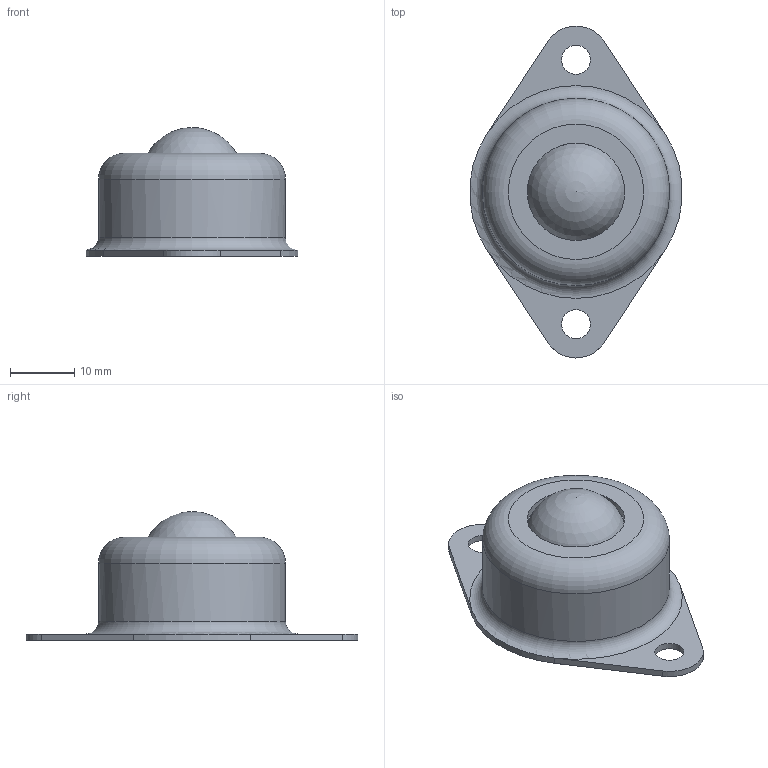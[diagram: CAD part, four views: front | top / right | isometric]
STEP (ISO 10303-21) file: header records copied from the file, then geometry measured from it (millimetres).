
FILE_DESCRIPTION(/* description */ (''),/* implementation_level */ '2;1');
FILE_NAME(/* name */ 'Z:\34-Tei\03-技術部指示\2018年\06-IM\X2\91CD837791CD3001\X0\MS\X2\30B730FC30C830DB30FC30E030DA30FC30B8752856F39762\X0\\IM-16型.stp',/* time_stamp */ '2018-02-13T15:08:26+09:00',/* author */ ('yamaki'),/* organization */ (''),/* preprocessor_version */ 'ST-DEVELOPER v16.5',/* originating_system */ 'Autodesk Inventor 2017',/* authorisation */ '');
FILE_SCHEMA (('AUTOMOTIVE_DESIGN { 1 0 10303 214 3 1 1 }'));
Length unit declared in the file: millimetre
Products named in the file (1): IM-16
Bounding box: 32.89 x 51.5 x 20 mm (x, y, z)
Volume: 10895.5 mm3; surface area: 4150.5 mm2
Topology: 1 solids, 2 shells, 35 faces, 74 edges, 46 vertices
Faces by surface type: plane 15, cylinder 12, torus 6, sphere 2
Full cylindrical faces by diameter (mm): 1 x1, 4.5 x2, 15.1 x1, 15.946 x1, 25 x1, 28.2 x1, 29 x1
Entity records: 847 total; most frequent: DIRECTION 158, CARTESIAN_POINT 126, ORIENTED_EDGE 102, AXIS2_PLACEMENT_3D 71, EDGE_LOOP 60, EDGE_CURVE 51, VERTEX_POINT 39, FACE_OUTER_BOUND 35
